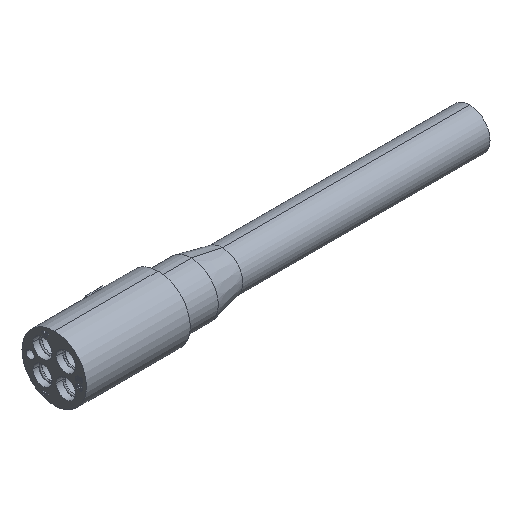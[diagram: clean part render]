
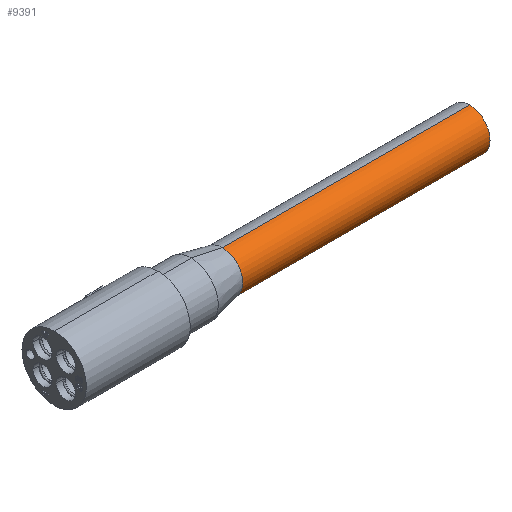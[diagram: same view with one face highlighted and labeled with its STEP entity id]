
A CAD part, isometric view. The second image highlights one B-rep face of the part: STEP entity #9391.
In plain terms, the highlighted cylindrical face has radius 4.9 mm (diameter 9.8 mm), a partial arc.
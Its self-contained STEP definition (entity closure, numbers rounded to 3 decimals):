
#3250=DIRECTION('',(1.,0.,0.));
#3251=VECTOR('',#3250,59.5);
#3252=CARTESIAN_POINT('',(40.5,0.,4.9));
#3253=LINE('',#3252,#3251);
#3265=CARTESIAN_POINT('',(100.,0.,0.));
#3266=DIRECTION('',(1.,0.,0.));
#3267=DIRECTION('',(0.,0.,1.));
#3268=AXIS2_PLACEMENT_3D('',#3265,#3266,#3267);
#3273=DIRECTION('',(1.,0.,0.));
#3274=VECTOR('',#3273,59.5);
#3275=CARTESIAN_POINT('',(40.5,0.,-4.9));
#3276=LINE('',#3275,#3274);
#3295=CARTESIAN_POINT('',(40.5,0.,0.));
#3296=DIRECTION('',(-1.,0.,0.));
#3297=DIRECTION('',(0.,0.,-1.));
#3298=AXIS2_PLACEMENT_3D('',#3295,#3296,#3297);
#6808=CARTESIAN_POINT('',(40.5,0.,-4.9));
#6809=CARTESIAN_POINT('',(100.,0.,-4.9));
#6810=VERTEX_POINT('',#6808);
#6811=VERTEX_POINT('',#6809);
#6972=CARTESIAN_POINT('',(40.5,0.,4.9));
#6973=VERTEX_POINT('',#6972);
#6998=CARTESIAN_POINT('',(100.,0.,4.9));
#6999=VERTEX_POINT('',#6998);
#9379=CARTESIAN_POINT('',(0.,0.,0.));
#9380=DIRECTION('',(-1.,0.,0.));
#9381=DIRECTION('',(0.,0.,1.));
#9382=AXIS2_PLACEMENT_3D('',#9379,#9380,#9381);
#9383=CYLINDRICAL_SURFACE('',#9382,4.9);
#9384=ORIENTED_EDGE('',*,*,#9363,.F.);
#9386=ORIENTED_EDGE('',*,*,#9385,.T.);
#9387=ORIENTED_EDGE('',*,*,#9360,.T.);
#9388=ORIENTED_EDGE('',*,*,#9374,.T.);
#9389=EDGE_LOOP('',(#9384,#9386,#9387,#9388));
#9390=FACE_OUTER_BOUND('',#9389,.F.);
#9391=ADVANCED_FACE('',(#9390),#9383,.T.);
#3269=CIRCLE('',#3268,4.9);
#3299=CIRCLE('',#3298,4.9);
#9360=EDGE_CURVE('',#6973,#6999,#3253,.T.);
#9363=EDGE_CURVE('',#6810,#6811,#3276,.T.);
#9374=EDGE_CURVE('',#6999,#6811,#3269,.T.);
#9385=EDGE_CURVE('',#6810,#6973,#3299,.T.);
